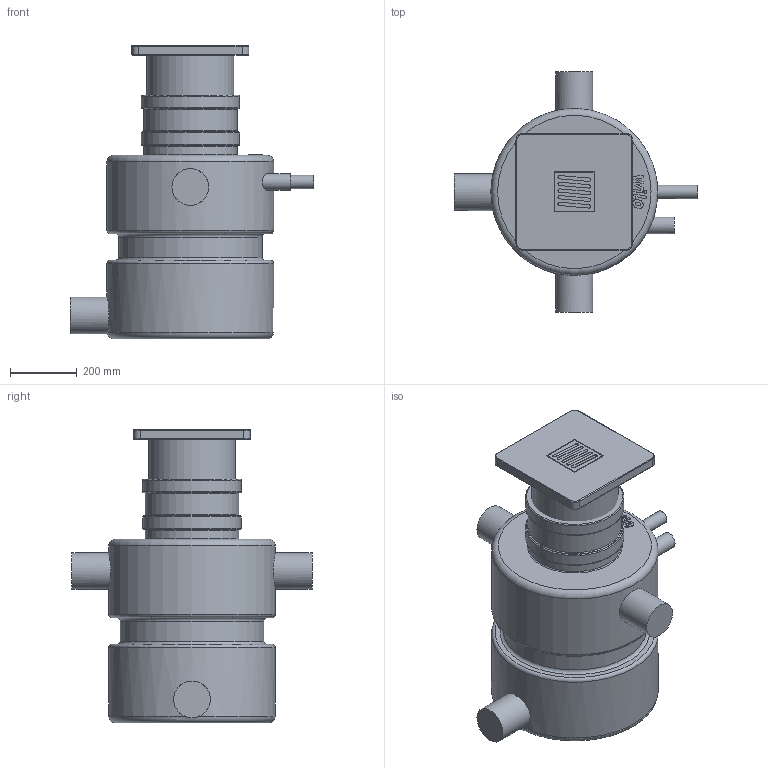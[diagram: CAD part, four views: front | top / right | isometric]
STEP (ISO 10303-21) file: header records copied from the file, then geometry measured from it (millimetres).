
FILE_DESCRIPTION(/* description */ (''),/* implementation_level */ '2;1');
FILE_NAME(/* name */ 'c:\dwg_dest\3d_DRAINLIFTBox32_11D-2546472.stp',/* time_stamp */ '2018-03-02T15:12:46+01:00',/* author */ ('Andrzej'),/* organization */ (''),/* preprocessor_version */ 'ST-DEVELOPER v16.13',/* originating_system */ 'AutoCAD Mechanical',/* authorisation */ '');
FILE_SCHEMA (('AUTOMOTIVE_DESIGN { 1 0 10303 214 3 1 1 }'));
Length unit declared in the file: millimetre
Products named in the file (1): Product
Bounding box: 730 x 720 x 880 mm (x, y, z)
Volume: 131411621.2 mm3; surface area: 2040706.8 mm2
Topology: 6 solids, 6 shells, 157 faces, 355 edges, 228 vertices
Faces by surface type: plane 76, cylinder 35, bspline 24, torus 22
Full cylindrical faces by diameter (mm): 40 x1, 50 x1, 110 x3, 260 x1, 280 x2, 295 x2, 430 x1, 500 x2
Entity records: 4953 total; most frequent: CARTESIAN_POINT 1638, ORIENTED_EDGE 644, DIRECTION 623, EDGE_CURVE 322, VERTEX_POINT 222, AXIS2_PLACEMENT_3D 221, EDGE_LOOP 204, LINE 181
